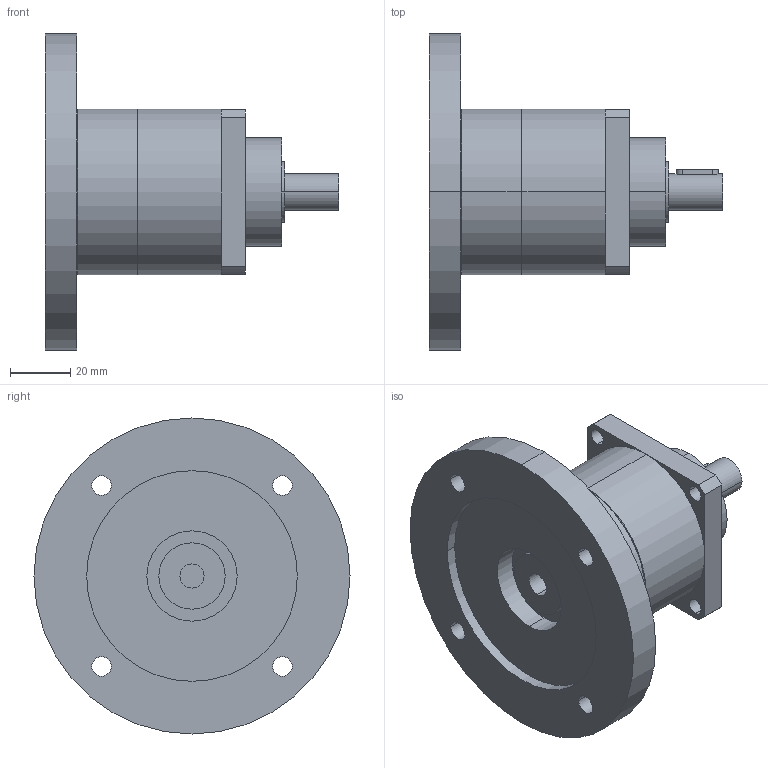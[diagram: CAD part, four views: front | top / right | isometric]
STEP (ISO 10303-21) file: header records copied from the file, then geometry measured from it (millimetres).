
FILE_DESCRIPTION(('CoCreate Modeling STEP Export'),'2;1');
FILE_NAME('GPT55_ig-3-4-5-7-10_12_B5A_8_P05.stp','2014-08-25T14:34:06',(''),(''),'CoCreate Modeling STEP processor for AP214 (Solid Model)','CoCreate Modeling 16.00C 25-Feb-2009 (C) Parametric Technology GmbH','');
FILE_SCHEMA(('AUTOMOTIVE_DESIGN { 1 0 10303 214 1 1 1 1 }'));
Length unit declared in the file: millimetre
Products named in the file (2): GPT55_ig-3-4-5-7-10_12_B5A_8_P05
Assembly tree (1 placements, depth 2):
  GPT55_ig-3-4-5-7-10_12_B5A_8_P05
    GPT55_ig-3-4-5-7-10_12_B5A_8_P05
Bounding box: 97.5 x 105 x 105 mm (x, y, z)
Volume: 222963.5 mm3; surface area: 37649.5 mm2
Topology: 1 solids, 1 shells, 71 faces, 180 edges, 121 vertices
Faces by surface type: cylinder 44, plane 23, cone 4
Entity records: 2268 total; most frequent: CARTESIAN_POINT 665, ORIENTED_EDGE 360, DIRECTION 278, EDGE_CURVE 180, VERTEX_POINT 121, AXIS2_PLACEMENT_3D 104, EDGE_LOOP 97, FACE_OUTER_BOUND 71
